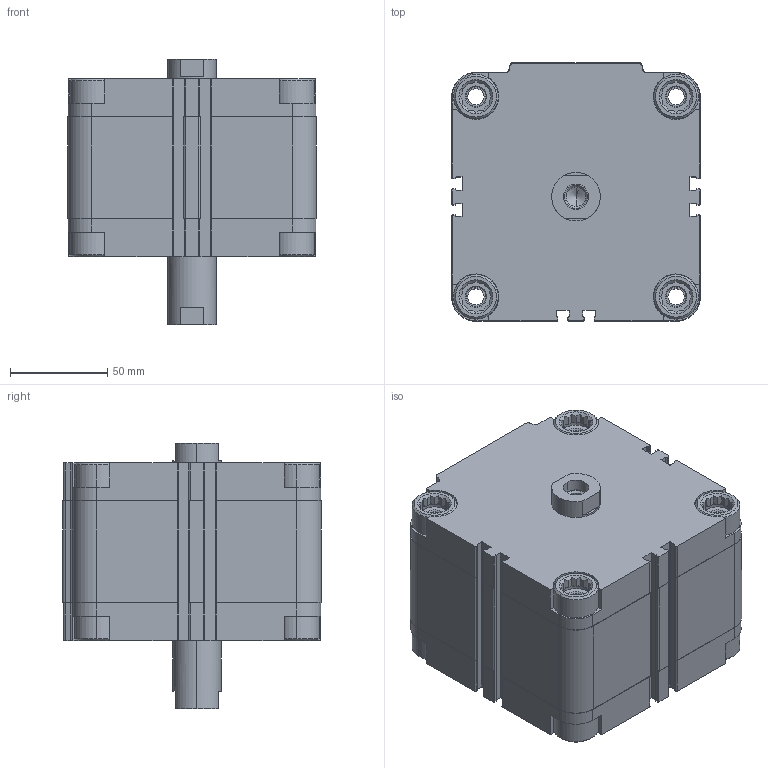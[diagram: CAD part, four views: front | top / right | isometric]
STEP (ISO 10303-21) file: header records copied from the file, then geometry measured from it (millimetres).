
FILE_DESCRIPTION (( 'STEP AP203' ), '1' );
FILE_NAME ('CDVU100-25F-P.STEP', '2020-07-24T18:42:22', ( '' ), ( '' ), 'SwSTEP 2.0', 'SolidWorks 2019', '' );
FILE_SCHEMA (( 'CONFIG_CONTROL_DESIGN' ));
Length unit declared in the file: millimetre
Products named in the file (1): CDVU100-25F-P
Bounding box: 128 x 133 x 136.5 mm (x, y, z)
Volume: 1273608.9 mm3; surface area: 167526.9 mm2
Topology: 2 solids, 2 shells, 670 faces, 1812 edges, 1188 vertices
Faces by surface type: plane 394, cylinder 212, cone 64
Entity records: 21267 total; most frequent: CARTESIAN_POINT 4239, ORIENTED_EDGE 3608, DIRECTION 3458, EDGE_CURVE 1804, VERTEX_POINT 1188, AXIS2_PLACEMENT_3D 1175, LINE 1108, VECTOR 1108
